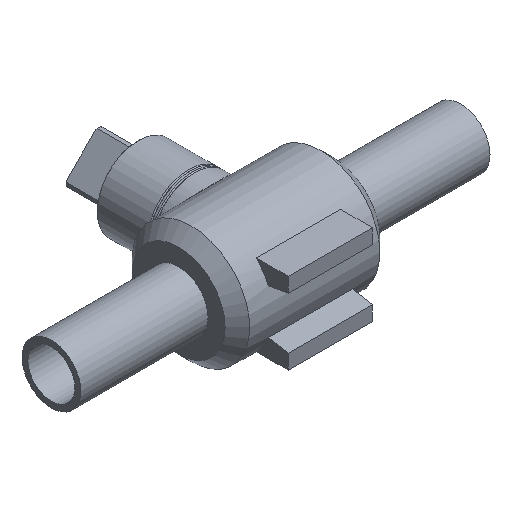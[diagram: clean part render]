
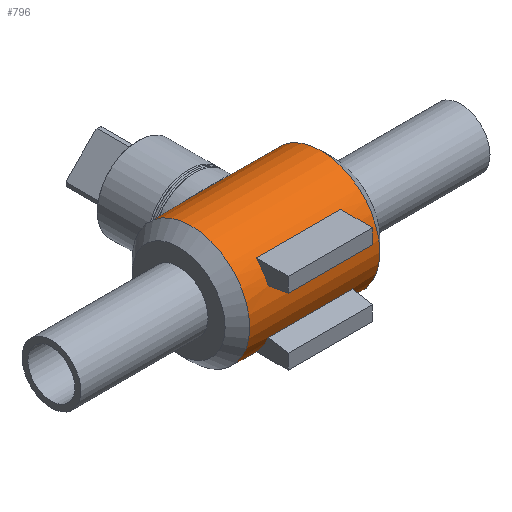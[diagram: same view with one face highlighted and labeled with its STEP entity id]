
A CAD part, isometric view. The second image highlights one B-rep face of the part: STEP entity #796.
In plain terms, the highlighted cylindrical face has radius 60 mm (diameter 120 mm), a full revolution.
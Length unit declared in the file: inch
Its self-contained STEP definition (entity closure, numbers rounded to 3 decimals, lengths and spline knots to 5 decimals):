
#18=FACE_BOUND('',#171,.T.);
#19=FACE_BOUND('',#172,.T.);
#20=FACE_BOUND('',#173,.T.);
#29=B_SPLINE_CURVE_WITH_KNOTS('',3,(#1454,#1455,#1456,#1457,#1458,#1459,
#1460,#1461,#1462,#1463,#1464,#1465,#1466,#1467,#1468,#1469,#1470,#1471,
#1472,#1473,#1474,#1475,#1476,#1477,#1478),.UNSPECIFIED.,.T.,.F.,(4,1,1,
1,1,1,1,1,1,1,1,1,1,1,1,1,1,1,1,1,1,1,4),(-39.77744,-38.83036,
-37.88328,-35.98911,-34.72634,-33.46356,
-32.20079,-30.93801,-29.67523,-28.41246,
-27.14968,-26.51829,-25.88691,-24.62413,
-23.36135,-22.09858,-20.8358,-19.57303,
-18.31025,-17.04747,-15.15331,-14.20623,
-13.25915),.UNSPECIFIED.);
#54=CIRCLE('',#875,2.3622);
#55=CIRCLE('',#876,2.3622);
#56=CIRCLE('',#877,2.3622);
#57=CIRCLE('',#878,2.3622);
#58=CIRCLE('',#879,2.3622);
#59=CIRCLE('',#880,2.3622);
#60=CIRCLE('',#881,2.3622);
#61=CIRCLE('',#882,2.3622);
#105=CYLINDRICAL_SURFACE('',#874,2.3622);
#127=FACE_OUTER_BOUND('',#170,.T.);
#170=EDGE_LOOP('',(#597,#598,#599,#600,#601,#602));
#171=EDGE_LOOP('',(#603,#604,#605,#606));
#172=EDGE_LOOP('',(#607,#608,#609,#610));
#173=EDGE_LOOP('',(#611));
#225=LINE('',#1495,#273);
#226=LINE('',#1503,#274);
#227=LINE('',#1506,#275);
#228=LINE('',#1511,#276);
#229=LINE('',#1514,#277);
#273=VECTOR('',#1034,2.3622);
#274=VECTOR('',#1041,0.3937);
#275=VECTOR('',#1044,0.3937);
#276=VECTOR('',#1047,0.3937);
#277=VECTOR('',#1050,0.3937);
#335=VERTEX_POINT('',#1421);
#342=VERTEX_POINT('',#1490);
#343=VERTEX_POINT('',#1491);
#344=VERTEX_POINT('',#1494);
#345=VERTEX_POINT('',#1496);
#346=VERTEX_POINT('',#1499);
#347=VERTEX_POINT('',#1500);
#348=VERTEX_POINT('',#1502);
#349=VERTEX_POINT('',#1504);
#350=VERTEX_POINT('',#1507);
#351=VERTEX_POINT('',#1508);
#352=VERTEX_POINT('',#1510);
#353=VERTEX_POINT('',#1512);
#437=EDGE_CURVE('',#335,#335,#29,.T.);
#443=EDGE_CURVE('',#342,#343,#54,.T.);
#444=EDGE_CURVE('',#343,#342,#55,.T.);
#445=EDGE_CURVE('',#343,#344,#225,.T.);
#446=EDGE_CURVE('',#344,#345,#56,.T.);
#447=EDGE_CURVE('',#345,#344,#57,.T.);
#448=EDGE_CURVE('',#346,#347,#58,.T.);
#449=EDGE_CURVE('',#347,#348,#226,.T.);
#450=EDGE_CURVE('',#348,#349,#59,.T.);
#451=EDGE_CURVE('',#349,#346,#227,.T.);
#452=EDGE_CURVE('',#350,#351,#60,.T.);
#453=EDGE_CURVE('',#351,#352,#228,.T.);
#454=EDGE_CURVE('',#352,#353,#61,.T.);
#455=EDGE_CURVE('',#353,#350,#229,.T.);
#597=ORIENTED_EDGE('',*,*,#443,.F.);
#598=ORIENTED_EDGE('',*,*,#444,.F.);
#599=ORIENTED_EDGE('',*,*,#445,.T.);
#600=ORIENTED_EDGE('',*,*,#446,.T.);
#601=ORIENTED_EDGE('',*,*,#447,.T.);
#602=ORIENTED_EDGE('',*,*,#445,.F.);
#603=ORIENTED_EDGE('',*,*,#448,.T.);
#604=ORIENTED_EDGE('',*,*,#449,.T.);
#605=ORIENTED_EDGE('',*,*,#450,.T.);
#606=ORIENTED_EDGE('',*,*,#451,.T.);
#607=ORIENTED_EDGE('',*,*,#452,.T.);
#608=ORIENTED_EDGE('',*,*,#453,.T.);
#609=ORIENTED_EDGE('',*,*,#454,.T.);
#610=ORIENTED_EDGE('',*,*,#455,.T.);
#611=ORIENTED_EDGE('',*,*,#437,.F.);
#796=ADVANCED_FACE('',(#127,#18,#19,#20),#105,.T.);
#874=AXIS2_PLACEMENT_3D('',#1489,#1028,#1029);
#875=AXIS2_PLACEMENT_3D('',#1492,#1030,#1031);
#876=AXIS2_PLACEMENT_3D('',#1493,#1032,#1033);
#877=AXIS2_PLACEMENT_3D('',#1497,#1035,#1036);
#878=AXIS2_PLACEMENT_3D('',#1498,#1037,#1038);
#879=AXIS2_PLACEMENT_3D('',#1501,#1039,#1040);
#880=AXIS2_PLACEMENT_3D('',#1505,#1042,#1043);
#881=AXIS2_PLACEMENT_3D('',#1509,#1045,#1046);
#882=AXIS2_PLACEMENT_3D('',#1513,#1048,#1049);
#1028=DIRECTION('center_axis',(1.,0.,0.));
#1029=DIRECTION('ref_axis',(0.,1.,0.));
#1030=DIRECTION('center_axis',(1.,0.,0.));
#1031=DIRECTION('ref_axis',(0.,0.,-1.));
#1032=DIRECTION('center_axis',(1.,0.,0.));
#1033=DIRECTION('ref_axis',(0.,0.,-1.));
#1034=DIRECTION('',(-1.,0.,0.));
#1035=DIRECTION('center_axis',(1.,0.,0.));
#1036=DIRECTION('ref_axis',(0.,0.,-1.));
#1037=DIRECTION('center_axis',(1.,0.,0.));
#1038=DIRECTION('ref_axis',(0.,0.,-1.));
#1039=DIRECTION('center_axis',(-1.,0.,0.));
#1040=DIRECTION('ref_axis',(0.,1.,0.));
#1041=DIRECTION('',(1.,0.,0.));
#1042=DIRECTION('center_axis',(1.,0.,0.));
#1043=DIRECTION('ref_axis',(0.,1.,0.));
#1044=DIRECTION('',(-1.,0.,0.));
#1045=DIRECTION('center_axis',(-1.,0.,0.));
#1046=DIRECTION('ref_axis',(0.,1.,0.));
#1047=DIRECTION('',(1.,0.,0.));
#1048=DIRECTION('center_axis',(1.,0.,0.));
#1049=DIRECTION('ref_axis',(0.,1.,0.));
#1050=DIRECTION('',(-1.,0.,0.));
#1421=CARTESIAN_POINT('',(-0.00169,1.66781,-1.67284));
#1454=CARTESIAN_POINT('Ctrl Pts',(-0.00169,1.66781,
-1.67284));
#1455=CARTESIAN_POINT('Ctrl Pts',(-0.1357,1.66794,-1.67272));
#1456=CARTESIAN_POINT('Ctrl Pts',(-0.40329,1.69998,-1.64146));
#1457=CARTESIAN_POINT('Ctrl Pts',(-0.88688,1.85874,-1.46926));
#1458=CARTESIAN_POINT('Ctrl Pts',(-1.30977,2.09272,-1.14012));
#1459=CARTESIAN_POINT('Ctrl Pts',(-1.61725,2.29121,-0.64069));
#1460=CARTESIAN_POINT('Ctrl Pts',(-1.74295,2.37852,-0.13191));
#1461=CARTESIAN_POINT('Ctrl Pts',(-1.69908,2.34767,0.39688));
#1462=CARTESIAN_POINT('Ctrl Pts',(-1.49853,2.21234,0.86943));
#1463=CARTESIAN_POINT('Ctrl Pts',(-1.17998,2.01803,1.24799));
#1464=CARTESIAN_POINT('Ctrl Pts',(-0.76998,1.81357,1.52247));
#1465=CARTESIAN_POINT('Ctrl Pts',(-0.35599,1.68827,1.65262));
#1466=CARTESIAN_POINT('Ctrl Pts',(0.00175,1.66086,1.67972));
#1467=CARTESIAN_POINT('Ctrl Pts',(0.35928,1.68895,1.65194));
#1468=CARTESIAN_POINT('Ctrl Pts',(0.77281,1.81478,1.52108));
#1469=CARTESIAN_POINT('Ctrl Pts',(1.18235,2.01932,1.24594));
#1470=CARTESIAN_POINT('Ctrl Pts',(1.50015,2.21343,0.86674));
#1471=CARTESIAN_POINT('Ctrl Pts',(1.69995,2.34828,0.39369));
#1472=CARTESIAN_POINT('Ctrl Pts',(1.74262,2.37825,-0.1352));
#1473=CARTESIAN_POINT('Ctrl Pts',(1.616,2.29035,-0.64376));
#1474=CARTESIAN_POINT('Ctrl Pts',(1.30763,2.09145,-1.14232));
#1475=CARTESIAN_POINT('Ctrl Pts',(0.88417,1.85743,-1.47086));
#1476=CARTESIAN_POINT('Ctrl Pts',(0.40004,1.69922,-1.64221));
#1477=CARTESIAN_POINT('Ctrl Pts',(0.13232,1.66769,-1.67297));
#1478=CARTESIAN_POINT('Ctrl Pts',(-0.00169,1.66781,
-1.67284));
#1489=CARTESIAN_POINT('Origin',(0.,0.,0.));
#1490=CARTESIAN_POINT('',(2.61654,2.3622,0.));
#1491=CARTESIAN_POINT('',(2.61654,-2.3622,0.));
#1492=CARTESIAN_POINT('Origin',(2.61654,0.,0.));
#1493=CARTESIAN_POINT('Origin',(2.61654,0.,0.));
#1494=CARTESIAN_POINT('',(-2.61654,-2.3622,0.));
#1495=CARTESIAN_POINT('',(0.,-2.3622,0.));
#1496=CARTESIAN_POINT('',(-2.61654,2.3622,0.));
#1497=CARTESIAN_POINT('Origin',(-2.61654,0.,0.));
#1498=CARTESIAN_POINT('Origin',(-2.61654,0.,0.));
#1499=CARTESIAN_POINT('',(-1.69291,-2.18372,0.90076));
#1500=CARTESIAN_POINT('',(-1.69291,-1.70602,1.63386));
#1501=CARTESIAN_POINT('Origin',(-1.69291,0.,0.));
#1502=CARTESIAN_POINT('',(1.69291,-1.70602,1.63386));
#1503=CARTESIAN_POINT('',(0.,-1.70602,1.63386));
#1504=CARTESIAN_POINT('',(1.69291,-2.18372,0.90076));
#1505=CARTESIAN_POINT('Origin',(1.69291,0.,0.));
#1506=CARTESIAN_POINT('',(0.,-2.18372,0.90076));
#1507=CARTESIAN_POINT('',(-1.69291,-1.70602,-1.63386));
#1508=CARTESIAN_POINT('',(-1.69291,-2.18372,-0.90076));
#1509=CARTESIAN_POINT('Origin',(-1.69291,0.,0.));
#1510=CARTESIAN_POINT('',(1.69291,-2.18372,-0.90076));
#1511=CARTESIAN_POINT('',(0.,-2.18372,-0.90076));
#1512=CARTESIAN_POINT('',(1.69291,-1.70602,-1.63386));
#1513=CARTESIAN_POINT('Origin',(1.69291,0.,0.));
#1514=CARTESIAN_POINT('',(0.,-1.70602,-1.63386));
